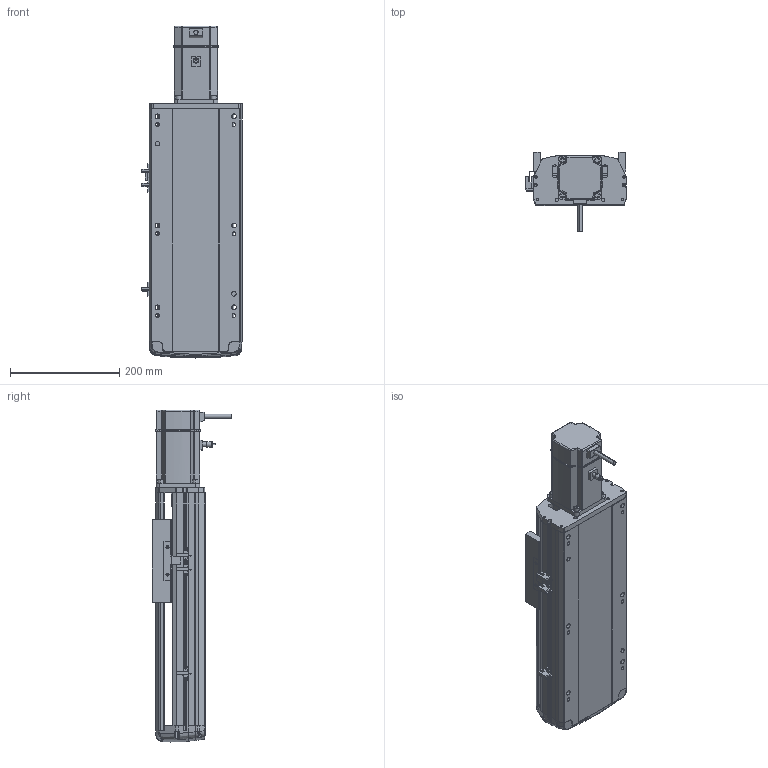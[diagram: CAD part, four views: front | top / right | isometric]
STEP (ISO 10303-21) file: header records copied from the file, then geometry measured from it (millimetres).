
FILE_DESCRIPTION (( 'STEP AP214' ), '1' );
FILE_NAME ('RTH17-XX-200-E-M75-C4.STEP', '2025-10-24T09:35:24', ( '' ), ( '' ), 'SwSTEP 2.0', 'SolidWorks 2018', '' );
FILE_SCHEMA (( 'AUTOMOTIVE_DESIGN' ));
Length unit declared in the file: millimetre
Products named in the file (9): N_RTH17-E-007上盖^RTH17-XX-XX-E-M75-C4（方程式）; N_M75^RTH17-XX-XX-E-M75-C4（方程式）; N_RTH17-E-011底座^RTH17-XX-XX-E-M75-C4（方程式）; N_RTH-L-012 感应片(外置)^RTH17-XX-XX-E-M75-C4（方程式）; N_RTH17-GY-001P^RTH17-XX-XX-E-M75-C4（方程式）; RTH17-XX-200-E-M75-C4; N_RTH17-E-004丝杆螺母连接座^RTH17-XX-XX-E-M75-C4（方程式）; N_RTH17-E-008-P75电机板^RTH17-XX-XX-E-M75-C4（方程式）; N_OMRON EE-SX672 換覜ん^RTH17-XX-XX-E-M75-C4ㄗ源最宒ㄘ
Assembly tree (10 placements, depth 2):
  RTH17-XX-200-E-M75-C4
    N_RTH17-E-011底座^RTH17-XX-XX-E-M75-C4（方程式）
    N_RTH17-E-007上盖^RTH17-XX-XX-E-M75-C4（方程式）
    N_M75^RTH17-XX-XX-E-M75-C4（方程式）
    N_RTH17-E-008-P75电机板^RTH17-XX-XX-E-M75-C4（方程式）
    N_OMRON EE-SX672 換覜ん^RTH17-XX-XX-E-M75-C4ㄗ源最宒ㄘ  x3
    N_RTH-L-012 感应片(外置)^RTH17-XX-XX-E-M75-C4（方程式）
    N_RTH17-E-004丝杆螺母连接座^RTH17-XX-XX-E-M75-C4（方程式）
    N_RTH17-GY-001P^RTH17-XX-XX-E-M75-C4（方程式）
Bounding box: 183.5 x 145.7 x 608.27 mm (x, y, z)
Volume: 4710693.7 mm3; surface area: 643866.1 mm2
Topology: 9 solids, 11 shells, 1732 faces, 4767 edges, 3086 vertices
Faces by surface type: plane 818, cylinder 500, bspline 377, cone 28, torus 9
Entity records: 50230 total; most frequent: CARTESIAN_POINT 19901, ORIENTED_EDGE 6558, DIRECTION 5507, EDGE_CURVE 3283, VERTEX_POINT 2122, AXIS2_PLACEMENT_3D 1859, LINE 1789, VECTOR 1789
